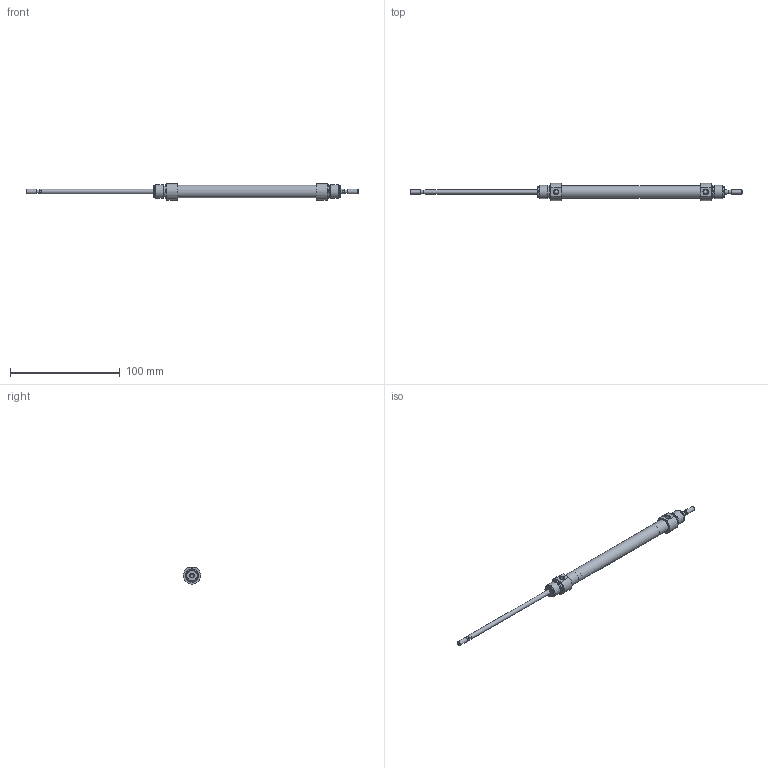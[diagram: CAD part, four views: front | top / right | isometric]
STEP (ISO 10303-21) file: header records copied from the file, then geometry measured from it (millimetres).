
FILE_DESCRIPTION( ( 'STEP AP203' ), '1' );
FILE_NAME( '//expscmdclustefs.cadenas.external/client_exchange/iodir/jobs/output/wkb68273189_no0/STEP/M101-010-0100--__0__2_03.stp', ' ', ( ' ' ), ( ' ' ), 'PSStep 15.0.47', 'PARTsolutions', ' ' );
FILE_SCHEMA( ( 'CONFIG_CONTROL_DESIGN' ) );
Length unit declared in the file: millimetre
Products named in the file (3): M101-010-0100-- [0]; HI_M101-010-0100---[0]-z; HI_M101-010-0100---[0]-k
Assembly tree (2 placements, depth 2):
  M101-010-0100-- [0]
    HI_M101-010-0100---[0]-z
    HI_M101-010-0100---[0]-k
Bounding box: 302 x 15.77 x 14.87 mm (x, y, z)
Volume: 13896.8 mm3; surface area: 15241 mm2
Topology: 2 solids, 2 shells, 71 faces, 145 edges, 88 vertices
Faces by surface type: plane 32, cylinder 23, cone 14, torus 2
Full cylindrical faces by diameter (mm): 3.141 x2, 4 x6, 4.134 x2, 10 x2, 10.466 x4, 11.3 x1, 12 x4
Entity records: 1838 total; most frequent: CARTESIAN_POINT 358, DIRECTION 312, ORIENTED_EDGE 212, AXIS2_PLACEMENT_3D 140, EDGE_LOOP 120, EDGE_CURVE 106, FACE_OUTER_BOUND 94, VERTEX_POINT 82
